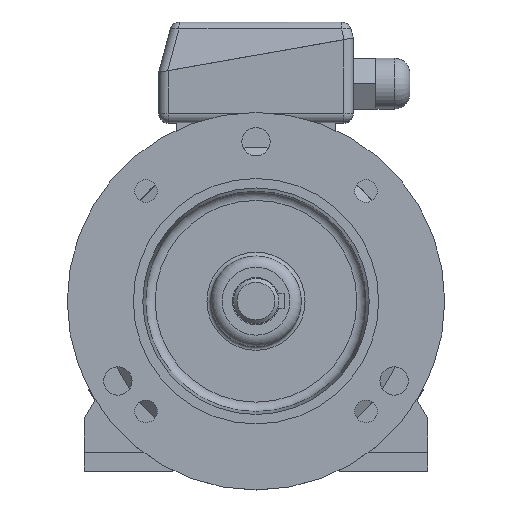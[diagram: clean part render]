
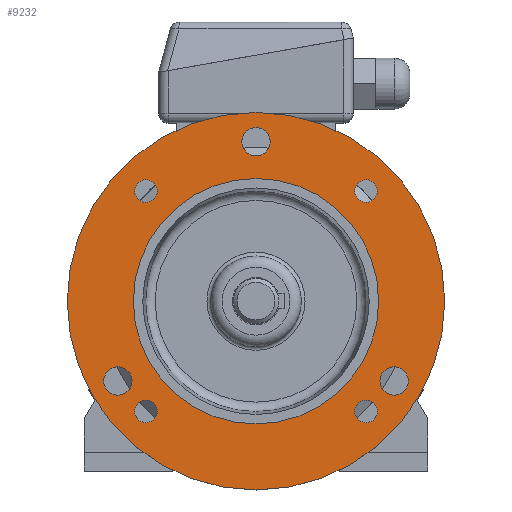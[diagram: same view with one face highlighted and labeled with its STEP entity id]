
A CAD part, top view. The second image highlights one B-rep face of the part: STEP entity #9232.
In plain terms, the highlighted planar face has unit normal (0, 0, 1).
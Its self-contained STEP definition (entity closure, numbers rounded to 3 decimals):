
#2242=ORIENTED_EDGE('',*,*,#5009,.F.);
#2243=ORIENTED_EDGE('',*,*,#4986,.T.);
#2244=ORIENTED_EDGE('',*,*,#5010,.F.);
#2245=ORIENTED_EDGE('',*,*,#5011,.F.);
#2246=ORIENTED_EDGE('',*,*,#5012,.F.);
#2247=ORIENTED_EDGE('',*,*,#5013,.F.);
#2248=ORIENTED_EDGE('',*,*,#5014,.F.);
#2249=ORIENTED_EDGE('',*,*,#5015,.F.);
#2250=ORIENTED_EDGE('',*,*,#5016,.F.);
#4986=EDGE_CURVE('',#6384,#6384,#7295,.T.);
#5009=EDGE_CURVE('',#6399,#6399,#7314,.T.);
#5010=EDGE_CURVE('',#6400,#6400,#7315,.T.);
#5011=EDGE_CURVE('',#6401,#6401,#7316,.T.);
#5012=EDGE_CURVE('',#6402,#6402,#7317,.T.);
#5013=EDGE_CURVE('',#6403,#6403,#7318,.T.);
#5014=EDGE_CURVE('',#6404,#6404,#7319,.T.);
#5015=EDGE_CURVE('',#6405,#6405,#7320,.T.);
#5016=EDGE_CURVE('',#6406,#6406,#7321,.T.);
#6384=VERTEX_POINT('',#13223);
#6399=VERTEX_POINT('',#13271);
#6400=VERTEX_POINT('',#13273);
#6401=VERTEX_POINT('',#13275);
#6402=VERTEX_POINT('',#13277);
#6403=VERTEX_POINT('',#13279);
#6404=VERTEX_POINT('',#13281);
#6405=VERTEX_POINT('',#13283);
#6406=VERTEX_POINT('',#13285);
#7295=CIRCLE('',#9790,65.);
#7314=CIRCLE('',#9819,100.);
#7315=CIRCLE('',#9820,6.);
#7316=CIRCLE('',#9821,6.);
#7317=CIRCLE('',#9822,6.);
#7318=CIRCLE('',#9823,6.);
#7319=CIRCLE('',#9824,7.5);
#7320=CIRCLE('',#9825,7.5);
#7321=CIRCLE('',#9826,7.5);
#7698=EDGE_LOOP('',(#2242));
#7699=EDGE_LOOP('',(#2243));
#7700=EDGE_LOOP('',(#2244));
#7701=EDGE_LOOP('',(#2245));
#7702=EDGE_LOOP('',(#2246));
#7703=EDGE_LOOP('',(#2247));
#7704=EDGE_LOOP('',(#2248));
#7705=EDGE_LOOP('',(#2249));
#7706=EDGE_LOOP('',(#2250));
#8325=FACE_BOUND('',#7698,.T.);
#8326=FACE_BOUND('',#7699,.T.);
#8327=FACE_BOUND('',#7700,.T.);
#8328=FACE_BOUND('',#7701,.T.);
#8329=FACE_BOUND('',#7702,.T.);
#8330=FACE_BOUND('',#7703,.T.);
#8331=FACE_BOUND('',#7704,.T.);
#8332=FACE_BOUND('',#7705,.T.);
#8333=FACE_BOUND('',#7706,.T.);
#8917=PLANE('',#9818);
#9232=ADVANCED_FACE('',(#8325,#8326,#8327,#8328,#8329,#8330,#8331,#8332,
#8333),#8917,.T.);
#9790=AXIS2_PLACEMENT_3D('',#13222,#10685,#10686);
#9818=AXIS2_PLACEMENT_3D('',#13269,#10745,#10746);
#9819=AXIS2_PLACEMENT_3D('',#13270,#10747,#10748);
#9820=AXIS2_PLACEMENT_3D('',#13272,#10749,#10750);
#9821=AXIS2_PLACEMENT_3D('',#13274,#10751,#10752);
#9822=AXIS2_PLACEMENT_3D('',#13276,#10753,#10754);
#9823=AXIS2_PLACEMENT_3D('',#13278,#10755,#10756);
#9824=AXIS2_PLACEMENT_3D('',#13280,#10757,#10758);
#9825=AXIS2_PLACEMENT_3D('',#13282,#10759,#10760);
#9826=AXIS2_PLACEMENT_3D('',#13284,#10761,#10762);
#10685=DIRECTION('',(0.,0.,-1.));
#10686=DIRECTION('',(-1.,0.,0.));
#10745=DIRECTION('',(0.,0.,1.));
#10746=DIRECTION('',(1.,0.,0.));
#10747=DIRECTION('',(0.,0.,-1.));
#10748=DIRECTION('',(-1.,0.,0.));
#10749=DIRECTION('',(0.,0.,1.));
#10750=DIRECTION('',(1.,0.,0.));
#10751=DIRECTION('',(0.,0.,1.));
#10752=DIRECTION('',(1.,0.,0.));
#10753=DIRECTION('',(0.,0.,1.));
#10754=DIRECTION('',(1.,0.,0.));
#10755=DIRECTION('',(0.,0.,1.));
#10756=DIRECTION('',(1.,0.,0.));
#10757=DIRECTION('',(0.,0.,1.));
#10758=DIRECTION('',(1.,0.,0.));
#10759=DIRECTION('',(0.,0.,1.));
#10760=DIRECTION('',(1.,0.,0.));
#10761=DIRECTION('',(0.,0.,1.));
#10762=DIRECTION('',(1.,0.,0.));
#13222=CARTESIAN_POINT('',(0.,0.,40.));
#13223=CARTESIAN_POINT('',(-65.,0.,40.));
#13269=CARTESIAN_POINT('',(-100.,0.,40.));
#13270=CARTESIAN_POINT('',(0.,0.,40.));
#13271=CARTESIAN_POINT('',(-100.,0.,40.));
#13272=CARTESIAN_POINT('',(58.336,58.336,40.));
#13273=CARTESIAN_POINT('',(64.336,58.336,40.));
#13274=CARTESIAN_POINT('',(58.336,-58.336,40.));
#13275=CARTESIAN_POINT('',(64.336,-58.336,40.));
#13276=CARTESIAN_POINT('',(-58.336,-58.336,40.));
#13277=CARTESIAN_POINT('',(-52.336,-58.336,40.));
#13278=CARTESIAN_POINT('',(-58.336,58.336,40.));
#13279=CARTESIAN_POINT('',(-52.336,58.336,40.));
#13280=CARTESIAN_POINT('',(0.,84.5,40.));
#13281=CARTESIAN_POINT('',(7.5,84.5,40.));
#13282=CARTESIAN_POINT('',(73.179,-42.25,40.));
#13283=CARTESIAN_POINT('',(80.679,-42.25,40.));
#13284=CARTESIAN_POINT('',(-73.179,-42.25,40.));
#13285=CARTESIAN_POINT('',(-65.679,-42.25,40.));
